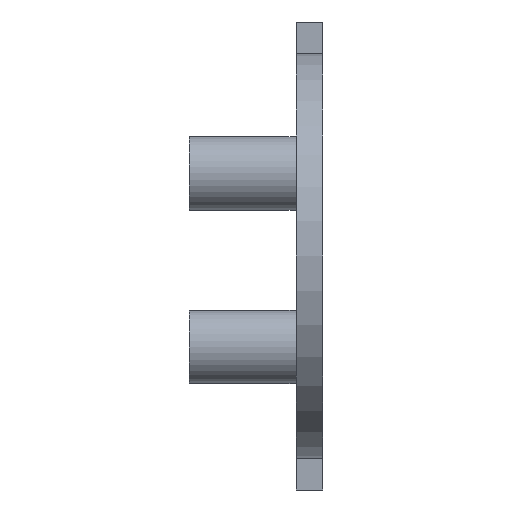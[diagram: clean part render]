
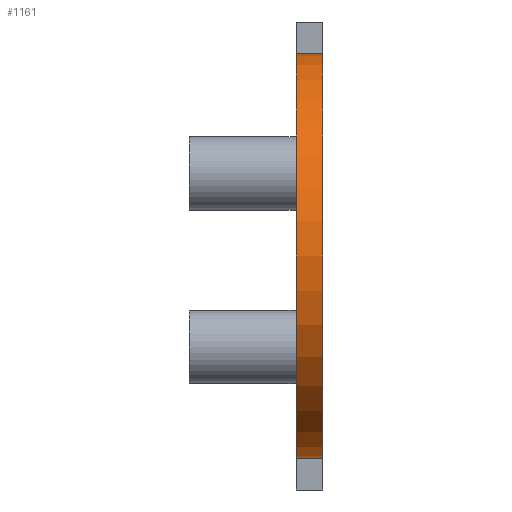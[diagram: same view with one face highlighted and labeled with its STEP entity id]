
A CAD part, left-side view. The second image highlights one B-rep face of the part: STEP entity #1161.
In plain terms, the highlighted cylindrical face has radius 15.19 mm (diameter 30.38 mm), a partial arc.
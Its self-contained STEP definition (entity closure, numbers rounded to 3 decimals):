
#565 = PLANE('',#566);
#566 = AXIS2_PLACEMENT_3D('',#567,#568,#569);
#567 = CARTESIAN_POINT('',(0.,2.,0.));
#568 = DIRECTION('',(0.,1.,0.));
#569 = DIRECTION('',(0.,-0.,1.));
#1101 = PLANE('',#1102);
#1102 = AXIS2_PLACEMENT_3D('',#1103,#1104,#1105);
#1103 = CARTESIAN_POINT('',(0.,0.,0.));
#1104 = DIRECTION('',(0.,1.,0.));
#1105 = DIRECTION('',(0.,-0.,1.));
#1161 = ADVANCED_FACE('',(#1162),#1177,.T.);
#1162 = FACE_BOUND('',#1163,.T.);
#1163 = EDGE_LOOP('',(#1164,#1195,#1223,#1247));
#1164 = ORIENTED_EDGE('',*,*,#1165,.T.);
#1165 = EDGE_CURVE('',#1166,#1168,#1170,.T.);
#1166 = VERTEX_POINT('',#1167);
#1167 = CARTESIAN_POINT('',(0.,0.,-15.19));
#1168 = VERTEX_POINT('',#1169);
#1169 = CARTESIAN_POINT('',(0.,0.,15.19));
#1170 = SURFACE_CURVE('',#1171,(#1176,#1188),.PCURVE_S1.);
#1171 = CIRCLE('',#1172,15.19);
#1172 = AXIS2_PLACEMENT_3D('',#1173,#1174,#1175);
#1173 = CARTESIAN_POINT('',(0.,0.,0.));
#1174 = DIRECTION('',(0.,1.,0.));
#1175 = DIRECTION('',(0.,-0.,1.));
#1176 = PCURVE('',#1177,#1182);
#1177 = CYLINDRICAL_SURFACE('',#1178,15.19);
#1178 = AXIS2_PLACEMENT_3D('',#1179,#1180,#1181);
#1179 = CARTESIAN_POINT('',(0.,2.,0.));
#1180 = DIRECTION('',(-0.,-1.,-0.));
#1181 = DIRECTION('',(0.,0.,-1.));
#1182 = DEFINITIONAL_REPRESENTATION('',(#1183),#1187);
#1183 = LINE('',#1184,#1185);
#1184 = CARTESIAN_POINT('',(9.425,2.));
#1185 = VECTOR('',#1186,1.);
#1186 = DIRECTION('',(-1.,0.));
#1187 = ( GEOMETRIC_REPRESENTATION_CONTEXT(2) 
PARAMETRIC_REPRESENTATION_CONTEXT() REPRESENTATION_CONTEXT('2D SPACE',''
  ) );
#1188 = PCURVE('',#1101,#1189);
#1189 = DEFINITIONAL_REPRESENTATION('',(#1190),#1194);
#1190 = CIRCLE('',#1191,15.19);
#1191 = AXIS2_PLACEMENT_2D('',#1192,#1193);
#1192 = CARTESIAN_POINT('',(0.,0.));
#1193 = DIRECTION('',(1.,0.));
#1194 = ( GEOMETRIC_REPRESENTATION_CONTEXT(2) 
PARAMETRIC_REPRESENTATION_CONTEXT() REPRESENTATION_CONTEXT('2D SPACE',''
  ) );
#1195 = ORIENTED_EDGE('',*,*,#1196,.F.);
#1196 = EDGE_CURVE('',#1197,#1168,#1199,.T.);
#1197 = VERTEX_POINT('',#1198);
#1198 = CARTESIAN_POINT('',(0.,2.,15.19));
#1199 = SURFACE_CURVE('',#1200,(#1204,#1211),.PCURVE_S1.);
#1200 = LINE('',#1201,#1202);
#1201 = CARTESIAN_POINT('',(0.,2.,15.19));
#1202 = VECTOR('',#1203,1.);
#1203 = DIRECTION('',(-0.,-1.,-0.));
#1204 = PCURVE('',#1177,#1205);
#1205 = DEFINITIONAL_REPRESENTATION('',(#1206),#1210);
#1206 = LINE('',#1207,#1208);
#1207 = CARTESIAN_POINT('',(3.142,0.));
#1208 = VECTOR('',#1209,1.);
#1209 = DIRECTION('',(0.,1.));
#1210 = ( GEOMETRIC_REPRESENTATION_CONTEXT(2) 
PARAMETRIC_REPRESENTATION_CONTEXT() REPRESENTATION_CONTEXT('2D SPACE',''
  ) );
#1211 = PCURVE('',#1212,#1217);
#1212 = PLANE('',#1213);
#1213 = AXIS2_PLACEMENT_3D('',#1214,#1215,#1216);
#1214 = CARTESIAN_POINT('',(0.,2.,15.19));
#1215 = DIRECTION('',(0.,0.,-1.));
#1216 = DIRECTION('',(-1.,0.,-0.));
#1217 = DEFINITIONAL_REPRESENTATION('',(#1218),#1222);
#1218 = LINE('',#1219,#1220);
#1219 = CARTESIAN_POINT('',(0.,0.));
#1220 = VECTOR('',#1221,1.);
#1221 = DIRECTION('',(0.,-1.));
#1222 = ( GEOMETRIC_REPRESENTATION_CONTEXT(2) 
PARAMETRIC_REPRESENTATION_CONTEXT() REPRESENTATION_CONTEXT('2D SPACE',''
  ) );
#1223 = ORIENTED_EDGE('',*,*,#1224,.F.);
#1224 = EDGE_CURVE('',#1225,#1197,#1227,.T.);
#1225 = VERTEX_POINT('',#1226);
#1226 = CARTESIAN_POINT('',(0.,2.,-15.19));
#1227 = SURFACE_CURVE('',#1228,(#1233,#1240),.PCURVE_S1.);
#1228 = CIRCLE('',#1229,15.19);
#1229 = AXIS2_PLACEMENT_3D('',#1230,#1231,#1232);
#1230 = CARTESIAN_POINT('',(0.,2.,0.));
#1231 = DIRECTION('',(0.,1.,0.));
#1232 = DIRECTION('',(0.,-0.,1.));
#1233 = PCURVE('',#1177,#1234);
#1234 = DEFINITIONAL_REPRESENTATION('',(#1235),#1239);
#1235 = LINE('',#1236,#1237);
#1236 = CARTESIAN_POINT('',(9.425,0.));
#1237 = VECTOR('',#1238,1.);
#1238 = DIRECTION('',(-1.,0.));
#1239 = ( GEOMETRIC_REPRESENTATION_CONTEXT(2) 
PARAMETRIC_REPRESENTATION_CONTEXT() REPRESENTATION_CONTEXT('2D SPACE',''
  ) );
#1240 = PCURVE('',#565,#1241);
#1241 = DEFINITIONAL_REPRESENTATION('',(#1242),#1246);
#1242 = CIRCLE('',#1243,15.19);
#1243 = AXIS2_PLACEMENT_2D('',#1244,#1245);
#1244 = CARTESIAN_POINT('',(0.,0.));
#1245 = DIRECTION('',(1.,0.));
#1246 = ( GEOMETRIC_REPRESENTATION_CONTEXT(2) 
PARAMETRIC_REPRESENTATION_CONTEXT() REPRESENTATION_CONTEXT('2D SPACE',''
  ) );
#1247 = ORIENTED_EDGE('',*,*,#1248,.T.);
#1248 = EDGE_CURVE('',#1225,#1166,#1249,.T.);
#1249 = SURFACE_CURVE('',#1250,(#1254,#1261),.PCURVE_S1.);
#1250 = LINE('',#1251,#1252);
#1251 = CARTESIAN_POINT('',(0.,2.,-15.19));
#1252 = VECTOR('',#1253,1.);
#1253 = DIRECTION('',(-0.,-1.,-0.));
#1254 = PCURVE('',#1177,#1255);
#1255 = DEFINITIONAL_REPRESENTATION('',(#1256),#1260);
#1256 = LINE('',#1257,#1258);
#1257 = CARTESIAN_POINT('',(6.283,0.));
#1258 = VECTOR('',#1259,1.);
#1259 = DIRECTION('',(0.,1.));
#1260 = ( GEOMETRIC_REPRESENTATION_CONTEXT(2) 
PARAMETRIC_REPRESENTATION_CONTEXT() REPRESENTATION_CONTEXT('2D SPACE',''
  ) );
#1261 = PCURVE('',#1262,#1267);
#1262 = PLANE('',#1263);
#1263 = AXIS2_PLACEMENT_3D('',#1264,#1265,#1266);
#1264 = CARTESIAN_POINT('',(0.,2.,-15.19));
#1265 = DIRECTION('',(0.,0.,-1.));
#1266 = DIRECTION('',(-1.,0.,-0.));
#1267 = DEFINITIONAL_REPRESENTATION('',(#1268),#1272);
#1268 = LINE('',#1269,#1270);
#1269 = CARTESIAN_POINT('',(0.,0.));
#1270 = VECTOR('',#1271,1.);
#1271 = DIRECTION('',(0.,-1.));
#1272 = ( GEOMETRIC_REPRESENTATION_CONTEXT(2) 
PARAMETRIC_REPRESENTATION_CONTEXT() REPRESENTATION_CONTEXT('2D SPACE',''
  ) );
